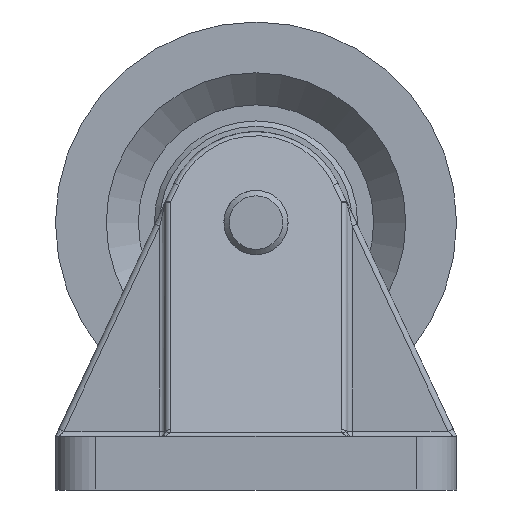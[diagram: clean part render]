
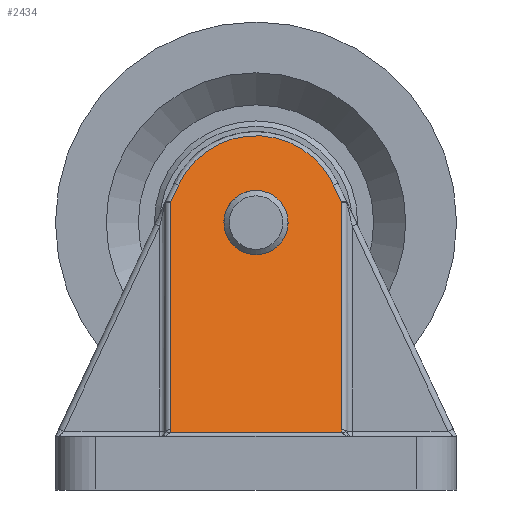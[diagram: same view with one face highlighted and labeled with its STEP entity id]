
A CAD part, left-side view. The second image highlights one B-rep face of the part: STEP entity #2434.
In plain terms, the highlighted planar face has unit normal (-0.971, 0, 0.238).
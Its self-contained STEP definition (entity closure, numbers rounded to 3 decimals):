
#85=FACE_BOUND('',#445,.T.);
#136=ELLIPSE('',#2735,16.476,16.);
#144=ELLIPSE('',#2751,2.059,2.);
#146=ELLIPSE('',#2757,2.059,2.);
#151=ELLIPSE('',#2792,6.178,6.);
#188=PLANE('',#2791);
#292=FACE_OUTER_BOUND('',#444,.T.);
#444=EDGE_LOOP('',(#1949,#1950,#1951,#1952,#1953,#1954,#1955,#1956));
#445=EDGE_LOOP('',(#1957));
#738=LINE('',#4752,#881);
#740=LINE('',#4795,#883);
#746=LINE('',#4949,#889);
#748=LINE('',#4955,#891);
#765=LINE('',#5114,#908);
#881=VECTOR('',#3239,10.);
#883=VECTOR('',#3249,10.);
#889=VECTOR('',#3287,10.);
#891=VECTOR('',#3293,10.);
#908=VECTOR('',#3378,10.);
#1078=VERTEX_POINT('',#4732);
#1080=VERTEX_POINT('',#4741);
#1083=VERTEX_POINT('',#4748);
#1085=VERTEX_POINT('',#4788);
#1094=VERTEX_POINT('',#4916);
#1097=VERTEX_POINT('',#4942);
#1099=VERTEX_POINT('',#4951);
#1101=VERTEX_POINT('',#4976);
#1119=VERTEX_POINT('',#5120);
#1360=EDGE_CURVE('',#1080,#1083,#738,.T.);
#1363=EDGE_CURVE('',#1083,#1085,#136,.T.);
#1365=EDGE_CURVE('',#1085,#1078,#740,.T.);
#1383=EDGE_CURVE('',#1094,#1097,#144,.T.);
#1385=EDGE_CURVE('',#1097,#1080,#746,.T.);
#1388=EDGE_CURVE('',#1078,#1099,#748,.T.);
#1391=EDGE_CURVE('',#1099,#1101,#146,.T.);
#1426=EDGE_CURVE('',#1101,#1094,#765,.T.);
#1429=EDGE_CURVE('',#1119,#1119,#151,.T.);
#1949=ORIENTED_EDGE('',*,*,#1383,.F.);
#1950=ORIENTED_EDGE('',*,*,#1426,.F.);
#1951=ORIENTED_EDGE('',*,*,#1391,.F.);
#1952=ORIENTED_EDGE('',*,*,#1388,.F.);
#1953=ORIENTED_EDGE('',*,*,#1365,.F.);
#1954=ORIENTED_EDGE('',*,*,#1363,.F.);
#1955=ORIENTED_EDGE('',*,*,#1360,.F.);
#1956=ORIENTED_EDGE('',*,*,#1385,.F.);
#1957=ORIENTED_EDGE('',*,*,#1429,.F.);
#2434=ADVANCED_FACE('',(#292,#85),#188,.F.);
#2735=AXIS2_PLACEMENT_3D('',#4792,#3244,#3245);
#2751=AXIS2_PLACEMENT_3D('',#4946,#3282,#3283);
#2757=AXIS2_PLACEMENT_3D('',#4980,#3298,#3299);
#2791=AXIS2_PLACEMENT_3D('',#5119,#3385,#3386);
#2792=AXIS2_PLACEMENT_3D('',#5121,#3387,#3388);
#3239=DIRECTION('',(0.217,-0.414,0.884));
#3244=DIRECTION('center_axis',(0.971,0.,-0.239));
#3245=DIRECTION('ref_axis',(0.239,0.,0.971));
#3249=DIRECTION('',(-0.217,-0.414,-0.884));
#3282=DIRECTION('center_axis',(-0.971,0.,0.239));
#3283=DIRECTION('ref_axis',(-0.239,0.,-0.971));
#3287=DIRECTION('',(0.239,0.,0.971));
#3293=DIRECTION('',(-0.239,0.,-0.971));
#3298=DIRECTION('center_axis',(-0.971,0.,0.239));
#3299=DIRECTION('ref_axis',(-0.239,0.,-0.971));
#3378=DIRECTION('',(0.,1.,0.));
#3385=DIRECTION('center_axis',(0.971,0.,-0.239));
#3386=DIRECTION('ref_axis',(0.239,0.,0.971));
#3387=DIRECTION('center_axis',(-0.971,0.,0.239));
#3388=DIRECTION('ref_axis',(-0.239,0.,-0.971));
#4732=CARTESIAN_POINT('',(-25.742,-16.,53.799));
#4741=CARTESIAN_POINT('',(-25.742,16.,53.799));
#4748=CARTESIAN_POINT('',(-24.95,14.49,57.023));
#4752=CARTESIAN_POINT('',(-36.589,36.678,9.637));
#4788=CARTESIAN_POINT('',(-24.95,-14.49,57.023));
#4792=CARTESIAN_POINT('Origin',(-26.617,0.,
50.239));
#4795=CARTESIAN_POINT('',(-27.695,-19.722,45.85));
#4916=CARTESIAN_POINT('',(-36.313,16.058,10.761));
#4942=CARTESIAN_POINT('',(-36.196,16.,11.239));
#4946=CARTESIAN_POINT('Origin',(-36.196,18.,11.239));
#4949=CARTESIAN_POINT('',(-29.415,16.,38.847));
#4951=CARTESIAN_POINT('',(-36.196,-16.,11.239));
#4955=CARTESIAN_POINT('',(-29.927,-16.,36.763));
#4976=CARTESIAN_POINT('',(-36.313,-16.058,10.761));
#4980=CARTESIAN_POINT('Origin',(-36.196,-18.,11.239));
#5114=CARTESIAN_POINT('',(-36.313,18.75,10.761));
#5119=CARTESIAN_POINT('Origin',(-36.5,37.5,10.));
#5120=CARTESIAN_POINT('',(-25.202,0.,56.));
#5121=CARTESIAN_POINT('Origin',(-26.675,0.,
50.));
